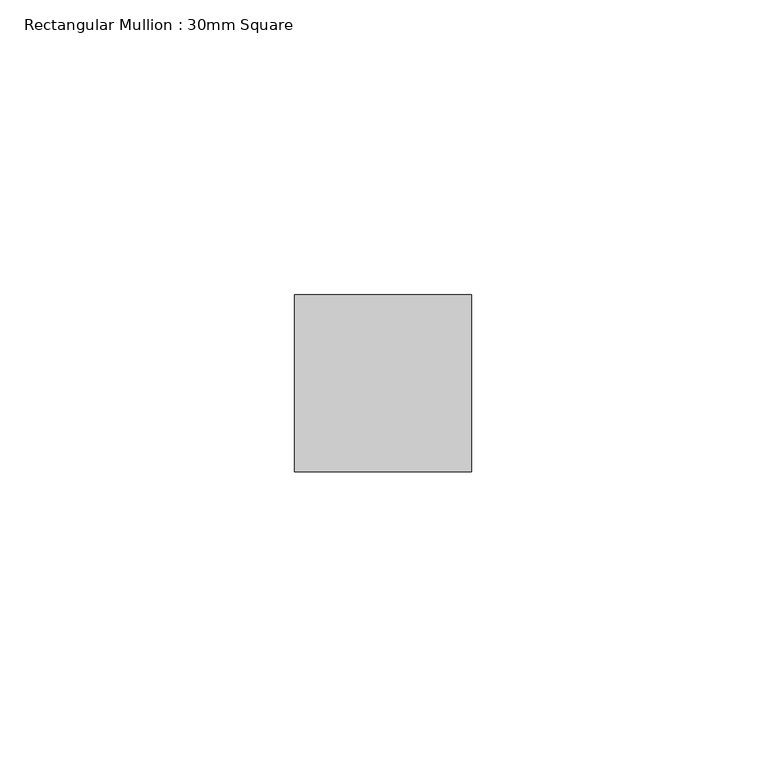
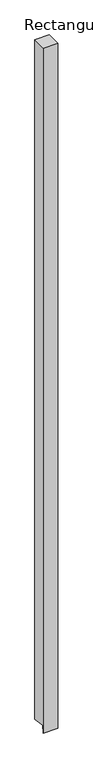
"""IFC4 building model written with IfcOpenShell, lengths in millimetres: member geometry, Rectangular Mullion : 30mm Square."""

from ifc_helpers import new_model, si_unit, frame, origin, place, context, project, spatial, polyline, outline, extrude, source, transform, mapped, element, save


def rectangular_mullion_30mm_square_4d99f9b3(model_context):
    return source(origin(), model_context, "Body", "SweptSolid", [
        extrude(outline(polyline([(-15.0, 0.0), (15.0, 0.0), (15.0, -1480.7712434), (-13.0073511, -1477.2426489), (-15.0, -1493.058809), (-15.0, 0.0)])), frame((-30.0, 0.0, 0.0), z_axis=(1.0, 0.0, 0.0), x_axis=(0.0, 1.0, 0.0)), (0.0, 0.0, 1.0), 30.0),
    ])


if __name__ == "__main__":
    model = new_model("IFC4")
    model_context = context("Model", 3, world=origin())
    ifc_project = project(units=[si_unit("LENGTHUNIT", "METRE", prefix="MILLI")], contexts=[model_context])
    site = spatial("IfcSite", under=ifc_project)
    building = spatial("IfcBuilding", under=site)
    placement = place(None, origin())
    rectangular_mullion_30mm_square_shape = rectangular_mullion_30mm_square_4d99f9b3(model_context)
    element("IfcMember", 1, ObjectType="Rectangular Mullion : 30mm Square", at=placement, inside=building, context=model_context, shape_type="MappedRepresentation", body=[
        mapped(rectangular_mullion_30mm_square_shape, transform((0.0, 0.0, 0.0), x_axis=(1.0, 0.0, 0.0), y_axis=(0.0, 1.0, 0.0), z_axis=(0.0, 0.0, 1.0))),
    ])
    save(model, "model.ifc")
